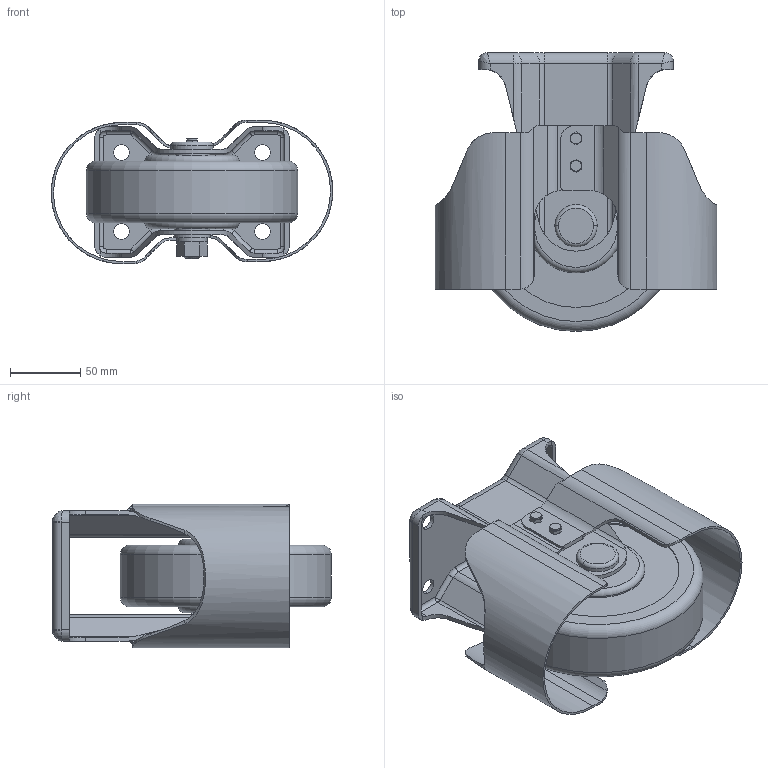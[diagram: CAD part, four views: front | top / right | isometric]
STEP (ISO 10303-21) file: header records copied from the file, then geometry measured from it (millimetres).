
FILE_DESCRIPTION (( 'STEP AP214' ), '1' );
FILE_NAME ('NSMCBKSAZ150rev0.STEP', '2017-11-29T05:29:59', ( '' ), ( '' ), 'SwSTEP 2.0', 'SolidWorks 2013', '' );
FILE_SCHEMA (( 'AUTOMOTIVE_DESIGN' ));
Length unit declared in the file: millimetre
Products named in the file (4): NSMCBKSAZrve2; NSMCBKSAZrve3; NSMCBKSAZrve1; NSMCBKSAZ150rev0
Assembly tree (3 placements, depth 2):
  NSMCBKSAZ150rev0
    NSMCBKSAZrve1
    NSMCBKSAZrve2
    NSMCBKSAZrve3
Bounding box: 200 x 198 x 102 mm (x, y, z)
Volume: 964734.7 mm3; surface area: 217013.9 mm2
Topology: 3 solids, 3 shells, 326 faces, 840 edges, 530 vertices
Faces by surface type: plane 144, cylinder 142, torus 32, bspline 4, cone 2, sphere 2
Entity records: 11146 total; most frequent: CARTESIAN_POINT 3124, ORIENTED_EDGE 1668, DIRECTION 1660, EDGE_CURVE 834, AXIS2_PLACEMENT_3D 614, VERTEX_POINT 530, VECTOR 432, LINE 432
